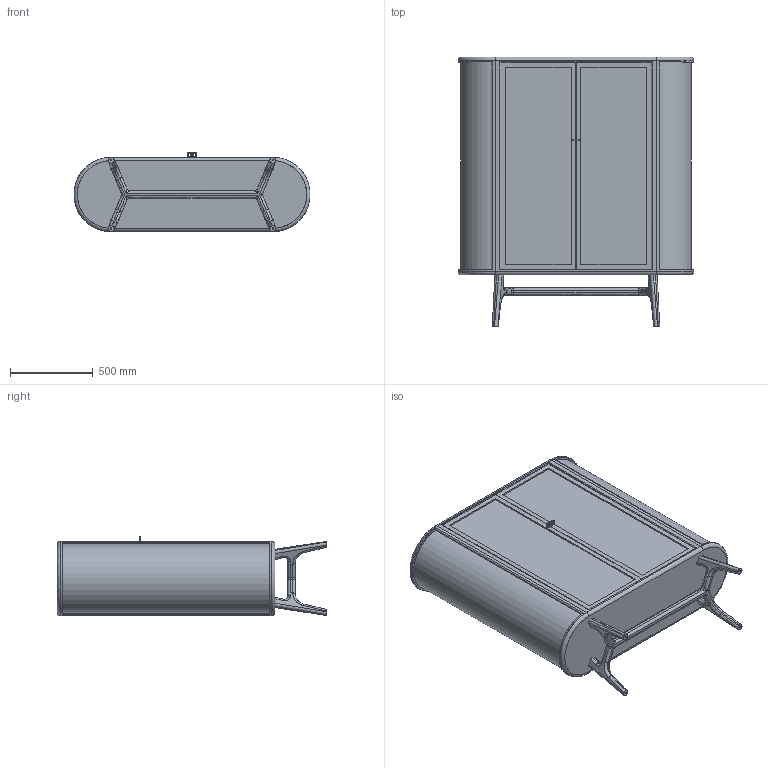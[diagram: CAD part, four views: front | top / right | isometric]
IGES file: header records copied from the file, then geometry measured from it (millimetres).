
Start section: SolidWorks IGES file using analytic representation for surfaces
Global section: file name: C:\Users\Ruben.BDLE\Box\Neri & Hu\789 Solo Vitrines\sales related\3D IGES\789T Solo_Vitrine_vd_prmt.IGS; native system: SolidWorks 2016; preprocessor: SolidWorks 2016; author: Ruben; date: 200414.173027; units: millimetre
Bounding box: 1430 x 1635 x 479.84 mm (x, y, z)
Surface area: 15607081.3 mm2 (no closed solid volume)
Topology: 0 solids, 0 shells, 709 faces, 8516 edges, 8488 vertices
Faces by surface type: bspline 409, revolution 300
